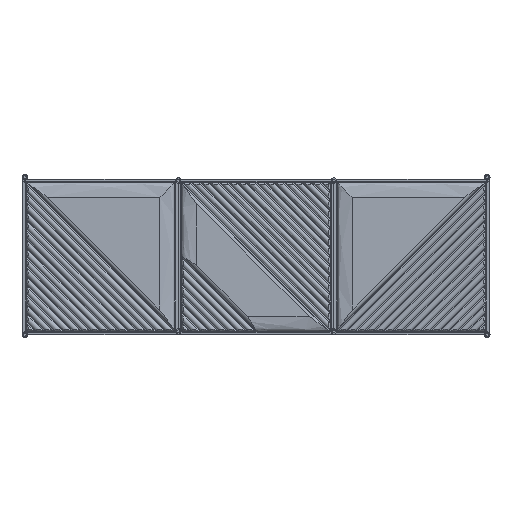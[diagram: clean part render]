
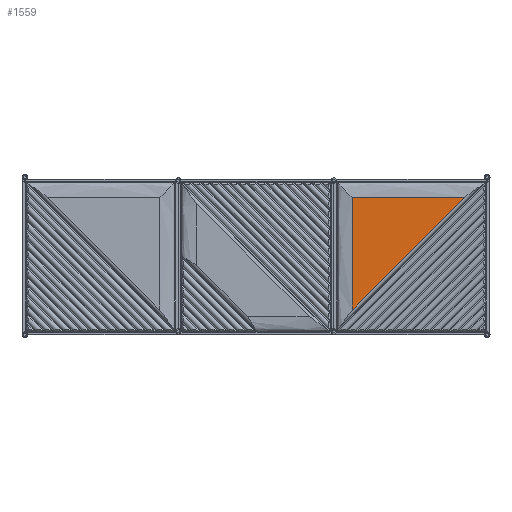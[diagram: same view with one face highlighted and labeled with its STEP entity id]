
A CAD part, top view. The second image highlights one B-rep face of the part: STEP entity #1559.
In plain terms, the highlighted planar face has unit normal (0, 0, 1).
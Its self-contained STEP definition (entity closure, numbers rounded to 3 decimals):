
#70=B_SPLINE_CURVE_WITH_KNOTS('',1,(#14882,#14883),.UNSPECIFIED.,.F.,.F.,
(2,2),(151.633,585.954),.UNSPECIFIED.);
#76=B_SPLINE_CURVE_WITH_KNOTS('',1,(#14932,#14933),.UNSPECIFIED.,.F.,.F.,
(2,2),(129.916,564.237),.UNSPECIFIED.);
#113=B_SPLINE_CURVE_WITH_KNOTS('',1,(#15606,#15607),.UNSPECIFIED.,.F.,.F.,
(2,2),(-696.866,-82.643),.UNSPECIFIED.);
#1559=ADVANCED_FACE('',(#2249),#10417,.T.);
#2249=FACE_OUTER_BOUND('',#2956,.T.);
#2956=EDGE_LOOP('',(#4100,#4101,#4102));
#4100=ORIENTED_EDGE('',*,*,#7080,.F.);
#4101=ORIENTED_EDGE('',*,*,#7125,.F.);
#4102=ORIENTED_EDGE('',*,*,#7087,.F.);
#7080=EDGE_CURVE('',#9474,#9473,#70,.T.);
#7087=EDGE_CURVE('',#9473,#9480,#76,.T.);
#7125=EDGE_CURVE('',#9480,#9474,#113,.T.);
#9473=VERTEX_POINT('',#13757);
#9474=VERTEX_POINT('',#13758);
#9480=VERTEX_POINT('',#13764);
#10417=PLANE('',#10800);
#10800=AXIS2_PLACEMENT_3D('',#12736,#11209,$);
#11209=DIRECTION('',(0.,0.,1.));
#12736=CARTESIAN_POINT('',(15530.402,-617.234,-14.));
#13757=CARTESIAN_POINT('',(16239.342,-54.578,-14.));
#13758=CARTESIAN_POINT('',(16239.342,-488.899,-14.));
#13764=CARTESIAN_POINT('',(16673.664,-54.578,-14.));
#14882=CARTESIAN_POINT('',(16239.342,-488.899,-14.));
#14883=CARTESIAN_POINT('',(16239.342,-54.578,-14.));
#14932=CARTESIAN_POINT('',(16239.342,-54.578,-14.));
#14933=CARTESIAN_POINT('',(16673.664,-54.578,-14.));
#15606=CARTESIAN_POINT('',(16673.664,-54.578,-14.));
#15607=CARTESIAN_POINT('',(16239.342,-488.899,-14.));
